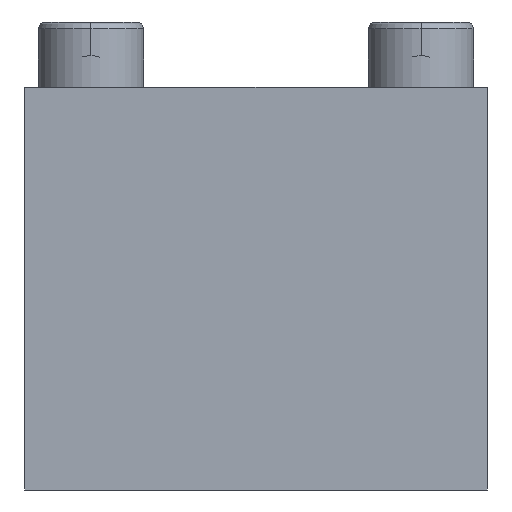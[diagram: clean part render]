
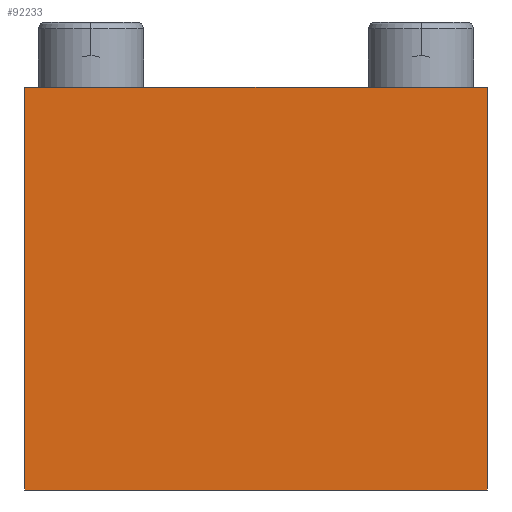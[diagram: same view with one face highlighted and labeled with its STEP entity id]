
A CAD part, front view. The second image highlights one B-rep face of the part: STEP entity #92233.
In plain terms, the highlighted planar face has unit normal (0, -1, 0).
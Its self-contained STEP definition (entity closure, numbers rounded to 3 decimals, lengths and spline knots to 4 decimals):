
#4031=LINE('',#119064,#14219);
#6690=LINE('',#129443,#16878);
#6693=LINE('',#129449,#16881);
#6694=LINE('',#129450,#16882);
#14219=VECTOR('',#101080,7.);
#16878=VECTOR('',#104003,6.1);
#16881=VECTOR('',#104008,6.1);
#16882=VECTOR('',#104009,7.);
#24412=PLANE('',#97273);
#28618=FACE_OUTER_BOUND('',#33980,.T.);
#33980=EDGE_LOOP('',(#64836,#64837,#64838,#64839));
#39231=VERTEX_POINT('',#119061);
#39232=VERTEX_POINT('',#119063);
#42948=VERTEX_POINT('',#129442);
#42950=VERTEX_POINT('',#129448);
#47991=EDGE_CURVE('',#39231,#39232,#4031,.T.);
#51708=EDGE_CURVE('',#39231,#42948,#6690,.T.);
#51711=EDGE_CURVE('',#39232,#42950,#6693,.T.);
#51712=EDGE_CURVE('',#42950,#42948,#6694,.T.);
#64836=ORIENTED_EDGE('',*,*,#51711,.F.);
#64837=ORIENTED_EDGE('',*,*,#47991,.F.);
#64838=ORIENTED_EDGE('',*,*,#51708,.T.);
#64839=ORIENTED_EDGE('',*,*,#51712,.F.);
#92233=ADVANCED_FACE('',(#28618),#24412,.T.);
#97273=AXIS2_PLACEMENT_3D('',#129447,#104006,#104007);
#101080=DIRECTION('',(1.,0.,0.));
#104003=DIRECTION('',(0.,0.,-1.));
#104006=DIRECTION('center_axis',(0.,-1.,0.));
#104007=DIRECTION('ref_axis',(-1.,0.,0.));
#104008=DIRECTION('',(0.,0.,-1.));
#104009=DIRECTION('',(-1.,0.,0.));
#119061=CARTESIAN_POINT('',(-3.5,-12.5,4.85));
#119063=CARTESIAN_POINT('',(3.5,-12.5,4.85));
#119064=CARTESIAN_POINT('',(3.5,-12.5,4.85));
#129442=CARTESIAN_POINT('',(-3.5,-12.5,-1.25));
#129443=CARTESIAN_POINT('',(-3.5,-12.5,0.));
#129447=CARTESIAN_POINT('Origin',(3.5,-12.5,3.6));
#129448=CARTESIAN_POINT('',(3.5,-12.5,-1.25));
#129449=CARTESIAN_POINT('',(3.5,-12.5,0.));
#129450=CARTESIAN_POINT('',(3.5,-12.5,-1.25));
